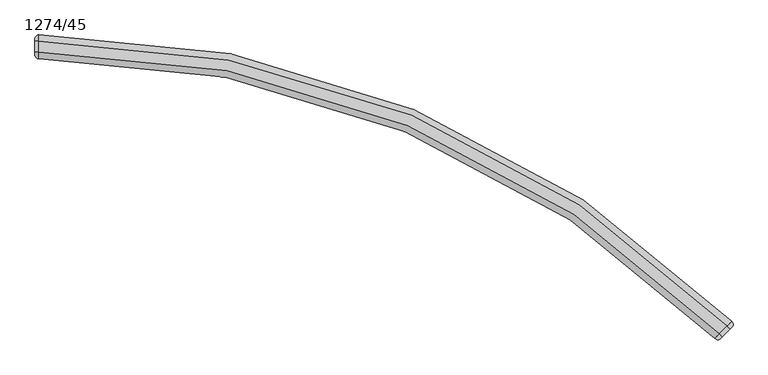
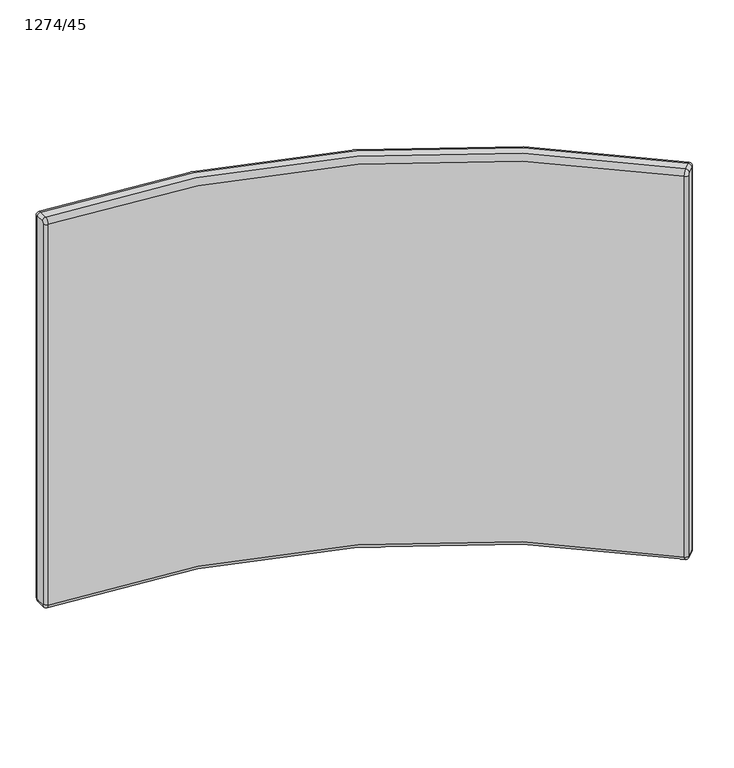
"""IFC4 building model written with IfcOpenShell, lengths in millimetres: furniture geometry, Laguna-Panel-Curve_Inside-ERG : 1274/45."""

from ifc_helpers import new_model, si_unit, point, frame, origin, place, context, project, spatial, polyline, circle_curve, ellipse_curve, trimmed, source, transform, mapped, element, save
from ifc_brep_helpers import plane_surface, cylinder_surface, revolved_surface, advanced_brep


def furniture_1274_45_6280a310(model_context):
    return source(origin(), model_context, "Body", "AdvancedBrep", [
        advanced_brep(
        [(-3724.0062066, 1033.1440543, 1056.64), (-3724.0062066, 1042.1243104, 1056.64), (-3731.1904115, 1034.9401055, 1066.8), (-3726.7002834, 1030.4499774, 1060.45), (-3743.7815089, 1022.3490081, 1066.8), (-3739.2913808, 1017.85888, 1060.45), (-3750.9657138, 1015.1648032, 1056.64), (-3741.9854577, 1015.1648032, 1056.64), (-3750.9657138, 1015.1648032, 213.36), (-3741.9854577, 1015.1648032, 213.36), (-3743.7815089, 1022.3490081, 203.2), (-3739.2913808, 1017.85888, 209.55), (-3731.1904115, 1034.9401055, 203.2), (-3726.7002834, 1030.4499774, 209.55), (-3724.0062066, 1042.1243104, 213.36), (-3724.0062066, 1033.1440543, 213.36), (-4826.5553779, 1498.8151303, 1056.64), (-4826.5553779, 1488.6551303, 1066.8), (-4826.5553779, 1498.8151303, 213.36), (-4826.5553779, 1488.6551303, 203.2), (-4826.5553779, 1470.8486296, 203.2), (-4826.5553779, 1460.6886296, 213.36), (-4826.5553779, 1460.6886296, 1056.64), (-4826.5553779, 1470.8486296, 1066.8), (-4832.9053779, 1467.0386296, 1056.64), (-4832.9053779, 1470.8486296, 1060.45), (-4832.9053779, 1488.6551303, 1060.45), (-4832.9053779, 1492.4651303, 1056.64), (-4832.9053779, 1492.4651303, 213.36), (-4832.9053779, 1488.6551303, 209.55), (-4832.9053779, 1470.8486296, 209.55), (-4832.9053779, 1467.0386296, 213.36)],
        [
            (0, 1, circle_curve(frame((-3728.4963346, 1037.6341823, 1056.64), z_axis=(0.0, 0.0, 1.0), x_axis=(-0.707106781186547, -0.707106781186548, 0.0)), 6.35)),
            (1, 2, circle_curve(frame((-3731.1904115, 1034.9401055, 1056.64), z_axis=(0.7071067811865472, -0.7071067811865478, 0.0), x_axis=(0.7071067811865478, 0.7071067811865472, 0.0)), 10.16)),
            (2, 3, circle_curve(frame((-3731.1904115, 1034.9401055, 1060.45), z_axis=(0.7071067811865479, 0.7071067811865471, 0.0), x_axis=(0.0, 0.0, -1.0)), 6.35)),
            (3, 0, circle_curve(frame((-3726.7002834, 1030.4499774, 1056.64), z_axis=(-0.7071067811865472, 0.7071067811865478, 0.0), x_axis=(0.7071067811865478, 0.7071067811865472, 0.0)), 3.81)),
            (2, 4),
            (4, 5, circle_curve(frame((-3743.7815089, 1022.3490081, 1060.45), z_axis=(0.7071067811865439, 0.7071067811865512, 0.0), x_axis=(0.0, 0.0, -1.0)), 6.35)),
            (5, 3),
            (4, 6, circle_curve(frame((-3743.7815089, 1022.3490081, 1056.64), z_axis=(0.7071067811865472, -0.7071067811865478, 0.0), x_axis=(0.0, 0.0, 1.0)), 10.16)),
            (6, 7, circle_curve(frame((-3746.4755857, 1019.6549312, 1056.64), z_axis=(0.0, 0.0, 1.0), x_axis=(0.7071067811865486, 0.7071067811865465, 0.0)), 6.35)),
            (7, 5, circle_curve(frame((-3739.2913808, 1017.85888, 1056.64), z_axis=(-0.7071067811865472, 0.7071067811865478, 0.0), x_axis=(0.0, 0.0, 1.0)), 3.81)),
            (6, 8),
            (8, 9, circle_curve(frame((-3746.4755857, 1019.6549312, 213.36), z_axis=(0.0, 0.0, 1.0), x_axis=(0.7071067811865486, 0.7071067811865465, 0.0)), 6.35)),
            (9, 7),
            (8, 10, circle_curve(frame((-3743.7815089, 1022.3490081, 213.36), z_axis=(0.7071067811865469, -0.7071067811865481, 0.0), x_axis=(-0.7071067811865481, -0.7071067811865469, 0.0)), 10.16)),
            (10, 11, circle_curve(frame((-3743.7815089, 1022.3490081, 209.55), z_axis=(-0.7071067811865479, -0.7071067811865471, 0.0), x_axis=(0.0, 0.0, 1.0)), 6.35)),
            (11, 9, circle_curve(frame((-3739.2913808, 1017.85888, 213.36), z_axis=(-0.7071067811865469, 0.7071067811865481, 0.0), x_axis=(-0.7071067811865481, -0.7071067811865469, 0.0)), 3.81)),
            (10, 12),
            (12, 13, circle_curve(frame((-3731.1904115, 1034.9401055, 209.55), z_axis=(-0.7071067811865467, -0.7071067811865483, 0.0), x_axis=(0.0, 0.0, 1.0)), 6.35)),
            (13, 11),
            (12, 14, circle_curve(frame((-3731.1904115, 1034.9401055, 213.36), z_axis=(0.7071067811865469, -0.7071067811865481, 0.0), x_axis=(0.0, 0.0, -1.0)), 10.16)),
            (14, 15, circle_curve(frame((-3728.4963346, 1037.6341823, 213.36), z_axis=(0.0, 0.0, -1.0), x_axis=(-0.7071067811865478, -0.7071067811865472, 0.0)), 6.35)),
            (15, 13, circle_curve(frame((-3726.7002834, 1030.4499774, 213.36), z_axis=(-0.7071067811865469, 0.7071067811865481, 0.0), x_axis=(0.0, 0.0, -1.0)), 3.81)),
            (0, 15),
            (14, 1),
            (1, 16, circle_curve(frame((-4826.5553779, -60.4248609, 1056.64), z_axis=(0.0, 0.0, 1.0), x_axis=(0.0, 1.0, 0.0)), 1559.2399912)),
            (16, 17, circle_curve(frame((-4826.5553779, 1488.6551303, 1056.64), z_axis=(1.0, 0.0, 0.0), x_axis=(0.0, 1.0, 0.0)), 10.16)),
            (17, 2, circle_curve(frame((-4826.5553779, -60.4248609, 1066.8), z_axis=(0.0, 0.0, -1.0), x_axis=(0.0, 1.0, 0.0)), 1549.0799912)),
            (14, 18, circle_curve(frame((-4826.5553779, -60.4248609, 213.36), z_axis=(0.0, 0.0, 1.0), x_axis=(0.0, 1.0, 0.0)), 1559.2399912)),
            (18, 16),
            (12, 19, circle_curve(frame((-4826.5553779, -60.4248609, 203.2), z_axis=(0.0, 0.0, 1.0), x_axis=(0.0, 1.0, 0.0)), 1549.0799912)),
            (19, 18, circle_curve(frame((-4826.5553779, 1488.6551303, 213.36), z_axis=(1.0, 0.0, 0.0), x_axis=(0.0, 1.0, 0.0)), 10.16)),
            (10, 20, circle_curve(frame((-4826.5553779, -60.4248609, 203.2), z_axis=(0.0, 0.0, 1.0), x_axis=(0.0, 1.0, 0.0)), 1531.2734905)),
            (20, 19),
            (8, 21, circle_curve(frame((-4826.5553779, -60.4248609, 213.36), z_axis=(0.0, 0.0, 1.0), x_axis=(0.0, 1.0, 0.0)), 1521.1134905)),
            (21, 20, circle_curve(frame((-4826.5553779, 1470.8486296, 213.36), z_axis=(1.0, 0.0, 0.0), x_axis=(0.0, 1.0, 0.0)), 10.16)),
            (6, 22, circle_curve(frame((-4826.5553779, -60.4248609, 1056.64), z_axis=(0.0, 0.0, 1.0), x_axis=(0.0, 1.0, 0.0)), 1521.1134905)),
            (22, 21),
            (4, 23, circle_curve(frame((-4826.5553779, -60.4248609, 1066.8), z_axis=(0.0, 0.0, 1.0), x_axis=(0.0, 1.0, 0.0)), 1531.2734905)),
            (23, 22, circle_curve(frame((-4826.5553779, 1470.8486296, 1056.64), z_axis=(1.0, 0.0, 0.0), x_axis=(0.0, 1.0, 0.0)), 10.16)),
            (17, 23),
            (24, 22, circle_curve(frame((-4826.5553779, 1467.0386296, 1056.64), z_axis=(0.0, 0.0, 1.0), x_axis=(0.0, 1.0, 0.0)), 6.35)),
            (23, 25, circle_curve(frame((-4826.5553779, 1470.8486296, 1060.45), z_axis=(0.0, -1.0, 0.0), x_axis=(0.0, 0.0, -1.0)), 6.35)),
            (25, 24, circle_curve(frame((-4832.9053779, 1470.8486296, 1056.64), z_axis=(1.0, 0.0, 0.0), x_axis=(0.0, -1.0, 0.0)), 3.81)),
            (17, 26, circle_curve(frame((-4826.5553779, 1488.6551303, 1060.45), z_axis=(0.0, -1.0, 0.0), x_axis=(0.0, 0.0, -1.0)), 6.35)),
            (26, 25),
            (16, 27, circle_curve(frame((-4826.5553779, 1492.4651303, 1056.64), z_axis=(0.0, 0.0, 1.0), x_axis=(0.0, -1.0, 0.0)), 6.35)),
            (27, 26, circle_curve(frame((-4832.9053779, 1488.6551303, 1056.64), z_axis=(1.0, 0.0, 0.0), x_axis=(0.0, 0.0, 1.0)), 3.81)),
            (18, 28, circle_curve(frame((-4826.5553779, 1492.4651303, 213.36), z_axis=(0.0, 0.0, 1.0), x_axis=(0.0, -1.0, 0.0)), 6.35)),
            (28, 27),
            (19, 29, circle_curve(frame((-4826.5553779, 1488.6551303, 209.55), z_axis=(0.0, 1.0, 0.0), x_axis=(0.0, 0.0, 1.0)), 6.35)),
            (29, 28, circle_curve(frame((-4832.9053779, 1488.6551303, 213.36), z_axis=(1.0, 0.0, 0.0), x_axis=(0.0, 1.0, 0.0)), 3.81)),
            (20, 30, circle_curve(frame((-4826.5553779, 1470.8486296, 209.55), z_axis=(0.0, 1.0, 0.0), x_axis=(0.0, 0.0, 1.0)), 6.35)),
            (30, 29),
            (21, 31, circle_curve(frame((-4826.5553779, 1467.0386296, 213.36), z_axis=(0.0, 0.0, -1.0), x_axis=(0.0, 1.0, 0.0)), 6.35)),
            (31, 30, circle_curve(frame((-4832.9053779, 1470.8486296, 213.36), z_axis=(1.0, 0.0, 0.0), x_axis=(0.0, 0.0, -1.0)), 3.81)),
            (24, 31),
        ],
        [
            revolved_surface(trimmed(ellipse_curve(frame((-3728.4963346, 1037.6341823, 1056.64), z_axis=(0.0, 0.0, -1.0), x_axis=(-0.707106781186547, -0.707106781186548, 0.0)), 6.35, 6.35), [point((-3724.0062066, 1042.1243104, 1056.64))], [point((-3724.0062066, 1033.1440543, 1056.64))], True, "CARTESIAN"), (-3731.1904115, 1034.9401055, 1056.64), (0.7071067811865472, -0.7071067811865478, 0.0)),
            cylinder_surface(frame((-3731.1904115, 1034.9401055, 1060.45), z_axis=(0.7071067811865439, 0.7071067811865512, 0.0), x_axis=(0.0, 0.0, -1.0)), 6.35),
            revolved_surface(trimmed(ellipse_curve(frame((-3743.7815089, 1022.3490081, 1060.45), z_axis=(0.707106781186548, 0.707106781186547, 0.0), x_axis=(0.0, 0.0, -1.0)), 6.35, 6.35), [point((-3743.7815089, 1022.3490081, 1066.8))], [point((-3739.2913808, 1017.85888, 1060.45))], True, "CARTESIAN"), (-3743.7815089, 1022.3490081, 1056.64), (0.7071067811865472, -0.7071067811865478, 0.0)),
            cylinder_surface(frame((-3746.4755857, 1019.6549312, 1056.64), z_axis=(0.0, 0.0, 1.0), x_axis=(0.7071067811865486, 0.7071067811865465, 0.0)), 6.35),
            revolved_surface(trimmed(ellipse_curve(frame((-3746.4755857, 1019.6549312, 213.36), z_axis=(0.0, 0.0, 1.0), x_axis=(0.7071067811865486, 0.7071067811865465, 0.0)), 6.35, 6.35), [point((-3750.9657138, 1015.1648032, 213.36))], [point((-3741.9854577, 1015.1648032, 213.36))], True, "CARTESIAN"), (-3743.7815089, 1022.3490081, 213.36), (0.7071067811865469, -0.7071067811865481, 0.0)),
            cylinder_surface(frame((-3743.7815089, 1022.3490081, 209.55), z_axis=(-0.7071067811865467, -0.7071067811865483, 0.0), x_axis=(0.0, 0.0, 1.0)), 6.35),
            revolved_surface(trimmed(ellipse_curve(frame((-3731.1904115, 1034.9401055, 209.55), z_axis=(-0.707106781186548, -0.707106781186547, 0.0), x_axis=(0.0, 0.0, 1.0)), 6.35, 6.35), [point((-3731.1904115, 1034.9401055, 203.2))], [point((-3726.7002834, 1030.4499774, 209.55))], True, "CARTESIAN"), (-3731.1904115, 1034.9401055, 213.36), (0.7071067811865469, -0.7071067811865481, 0.0)),
            cylinder_surface(frame((-3728.4963346, 1037.6341823, 213.36), z_axis=(0.0, 0.0, -1.0), x_axis=(-0.7071067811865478, -0.7071067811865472, 0.0)), 6.35),
            plane_surface(frame((-3741.9854577, 1015.1648032, 213.36), z_axis=(0.7071067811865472, -0.7071067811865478, 0.0), x_axis=(0.0, 0.0, -1.0))),
            revolved_surface(trimmed(ellipse_curve(frame((-4826.5553779, 1488.6551303, 1056.64), z_axis=(-1.0, 0.0, 0.0), x_axis=(0.0, 1.0, 0.0)), 10.16, 10.16), [point((-4826.5553779, 1488.6551303, 1066.8))], [point((-4826.5553779, 1498.8151303, 1056.64))], True, "CARTESIAN"), (-4826.5553779, -60.4248609, 0.0), (0.0, 0.0, -1.0)),
            cylinder_surface(frame((-4826.5553779, -60.4248609, 0.0), z_axis=(0.0, 0.0, -1.0), x_axis=(0.0, 1.0, 0.0)), 1559.2399912),
            revolved_surface(trimmed(ellipse_curve(frame((-4826.5553779, 1488.6551303, 213.36), z_axis=(-1.0, 0.0, 0.0), x_axis=(0.0, 1.0, 0.0)), 10.16, 10.16), [point((-4826.5553779, 1498.8151303, 213.36))], [point((-4826.5553779, 1488.6551303, 203.2))], True, "CARTESIAN"), (-4826.5553779, -60.4248609, 0.0), (0.0, 0.0, -1.0)),
            plane_surface(frame((-4826.5553779, -60.4248609, 203.2), z_axis=(0.0, 0.0, -1.0), x_axis=(0.0, 1.0, 0.0))),
            revolved_surface(trimmed(ellipse_curve(frame((-4826.5553779, 1470.8486296, 213.36), z_axis=(-1.0, 0.0, 0.0), x_axis=(0.0, 1.0, 0.0)), 10.16, 10.16), [point((-4826.5553779, 1470.8486296, 203.2))], [point((-4826.5553779, 1460.6886296, 213.36))], True, "CARTESIAN"), (-4826.5553779, -60.4248609, 0.0), (0.0, 0.0, -1.0)),
            revolved_surface(polyline([(-4826.5553779, 1460.6886295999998, 213.36), (-4826.5553779, 1460.6886295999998, 1056.64)]), (-4826.5553779, -60.4248609, 0.0), (0.0, 0.0, -1.0)),
            revolved_surface(trimmed(ellipse_curve(frame((-4826.5553779, 1470.8486296, 1056.64), z_axis=(-1.0, 0.0, 0.0), x_axis=(0.0, 1.0, 0.0)), 10.16, 10.16), [point((-4826.5553779, 1460.6886296, 1056.64))], [point((-4826.5553779, 1470.8486296, 1066.8))], True, "CARTESIAN"), (-4826.5553779, -60.4248609, 0.0), (0.0, 0.0, -1.0)),
            plane_surface(frame((-4826.5553779, -60.4248609, 1066.8), z_axis=(0.0, 0.0, 1.0), x_axis=(0.0, 1.0, 0.0))),
            revolved_surface(trimmed(ellipse_curve(frame((-4826.5553779, 1467.0386296, 1056.64), z_axis=(0.0, 0.0, -1.0), x_axis=(0.0, 1.0, 0.0)), 6.35, 6.35), [point((-4826.5553779, 1460.6886296, 1056.64))], [point((-4832.9053779, 1467.0386296, 1056.64))], True, "CARTESIAN"), (-4826.5553779, 1470.8486296, 1056.64), (-1.0, 0.0, 0.0)),
            cylinder_surface(frame((-4826.5553779, 1470.8486296, 1060.45), z_axis=(0.0, -1.0, 0.0), x_axis=(0.0, 0.0, -1.0)), 6.35),
            revolved_surface(trimmed(ellipse_curve(frame((-4826.5553779, 1488.6551303, 1060.45), z_axis=(0.0, -1.0, 0.0), x_axis=(0.0, 0.0, -1.0)), 6.35, 6.35), [point((-4826.5553779, 1488.6551303, 1066.8))], [point((-4832.9053779, 1488.6551303, 1060.45))], True, "CARTESIAN"), (-4826.5553779, 1488.6551303, 1056.64), (-1.0, 0.0, 0.0)),
            cylinder_surface(frame((-4826.5553779, 1492.4651303, 1056.64), z_axis=(0.0, 0.0, 1.0), x_axis=(0.0, -1.0, 0.0)), 6.35),
            revolved_surface(trimmed(ellipse_curve(frame((-4826.5553779, 1492.4651303, 213.36), z_axis=(0.0, 0.0, 1.0), x_axis=(0.0, -1.0, 0.0)), 6.35, 6.35), [point((-4826.5553779, 1498.8151303, 213.36))], [point((-4832.9053779, 1492.4651303, 213.36))], True, "CARTESIAN"), (-4826.5553779, 1488.6551303, 213.36), (-1.0, 0.0, 0.0)),
            cylinder_surface(frame((-4826.5553779, 1488.6551303, 209.55), z_axis=(0.0, 1.0, 0.0), x_axis=(0.0, 0.0, 1.0)), 6.35),
            revolved_surface(trimmed(ellipse_curve(frame((-4826.5553779, 1470.8486296, 209.55), z_axis=(0.0, 1.0, 0.0), x_axis=(0.0, 0.0, 1.0)), 6.35, 6.35), [point((-4826.5553779, 1470.8486296, 203.2))], [point((-4832.9053779, 1470.8486296, 209.55))], True, "CARTESIAN"), (-4826.5553779, 1470.8486296, 213.36), (-1.0, 0.0, 0.0)),
            cylinder_surface(frame((-4826.5553779, 1467.0386296, 213.36), z_axis=(0.0, 0.0, -1.0), x_axis=(0.0, 1.0, 0.0)), 6.35),
            plane_surface(frame((-4832.9053779, 1492.4651303, 213.36), z_axis=(-1.0, 0.0, 0.0), x_axis=(0.0, 0.0, -1.0))),
        ],
        [
            (0, [[1, 2, 3, 4]]),
            (1, [[-3, 5, 6, 7]]),
            (2, [[-6, 8, 9, 10]]),
            (3, [[-9, 11, 12, 13]]),
            (4, [[-12, 14, 15, 16]]),
            (5, [[-15, 17, 18, 19]]),
            (6, [[-18, 20, 21, 22]]),
            (7, [[-1, 23, -21, 24]]),
            (8, [[-4, -7, -10, -13, -16, -19, -22, -23]]),
            (9, [[25, 26, 27, -2]]),
            (10, [[-25, -24, 28, 29]]),
            (11, [[-28, -20, 30, 31]]),
            (12, [[-30, -17, 32, 33]]),
            (13, [[-32, -14, 34, 35]]),
            (14, [[-34, -11, 36, 37]]),
            (15, [[-36, -8, 38, 39]]),
            (16, [[-27, 40, -38, -5]]),
            (17, [[41, -39, 42, 43]]),
            (18, [[-42, -40, 44, 45]]),
            (19, [[-44, -26, 46, 47]]),
            (20, [[-46, -29, 48, 49]]),
            (21, [[-48, -31, 50, 51]]),
            (22, [[-50, -33, 52, 53]]),
            (23, [[-52, -35, 54, 55]]),
            (24, [[-41, 56, -54, -37]]),
            (25, [[-43, -45, -47, -49, -51, -53, -55, -56]]),
        ],
    ),
    ])


if __name__ == "__main__":
    model = new_model("IFC4")
    model_context = context("Model", 3, world=origin())
    ifc_project = project(units=[si_unit("LENGTHUNIT", "METRE", prefix="MILLI")], contexts=[model_context])
    site = spatial("IfcSite", under=ifc_project)
    building = spatial("IfcBuilding", under=site)
    placement = place(None, origin())
    furniture_1274_45_shape = furniture_1274_45_6280a310(model_context)
    element("IfcFurniture", 1, ObjectType="Laguna-Panel-Curve_Inside-ERG : 1274/45", at=placement, inside=building, context=model_context, shape_type="MappedRepresentation", body=[
        mapped(furniture_1274_45_shape, transform((0.0, 0.0, 0.0), x_axis=(1.0, 0.0, 0.0), y_axis=(0.0, 1.0, 0.0), z_axis=(0.0, 0.0, 1.0))),
    ])
    save(model, "model.ifc")
